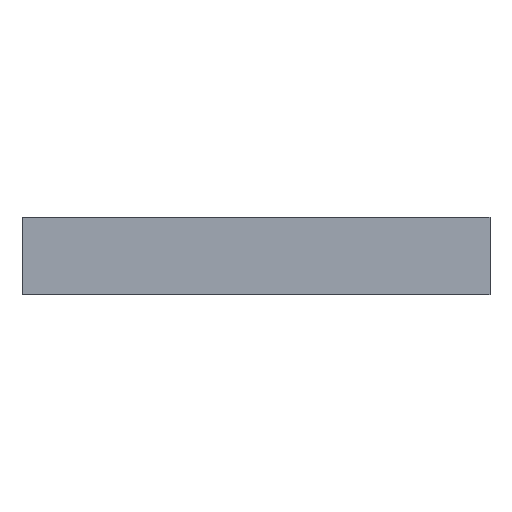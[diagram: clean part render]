
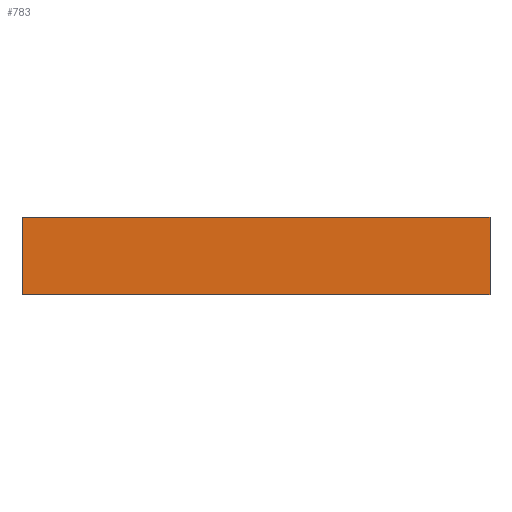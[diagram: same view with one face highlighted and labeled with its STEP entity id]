
A CAD part, left-side view. The second image highlights one B-rep face of the part: STEP entity #783.
In plain terms, the highlighted planar face has unit normal (-1, 0, 0).
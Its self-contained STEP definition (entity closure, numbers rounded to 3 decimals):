
#9 = FACE_OUTER_BOUND ( 'NONE', #268, .T. ) ;
#15 = DIRECTION ( 'NONE',  ( -1., 0., 0. ) ) ;
#57 = DIRECTION ( 'NONE',  ( 0., 0., -1. ) ) ;
#167 = LINE ( 'NONE', #852, #961 ) ;
#177 = CARTESIAN_POINT ( 'NONE',  ( 8.121, 33.804, 51.525 ) ) ;
#223 = ORIENTED_EDGE ( 'NONE', *, *, #1051, .T. ) ;
#268 = EDGE_LOOP ( 'NONE', ( #392, #1337, #223, #1166 ) ) ;
#288 = VERTEX_POINT ( 'NONE', #763 ) ;
#348 = PLANE ( 'NONE',  #722 ) ;
#392 = ORIENTED_EDGE ( 'NONE', *, *, #686, .F. ) ;
#421 = DIRECTION ( 'NONE',  ( 0., 0., -1. ) ) ;
#428 = VECTOR ( 'NONE', #421, 1000. ) ;
#673 = DIRECTION ( 'NONE',  ( 0., 0., 1. ) ) ;
#686 = EDGE_CURVE ( 'NONE', #1156, #1226, #1108, .T. ) ;
#722 = AXIS2_PLACEMENT_3D ( 'NONE', #1490, #15, #673 ) ;
#734 = DIRECTION ( 'NONE',  ( 0., 1., 0. ) ) ;
#763 = CARTESIAN_POINT ( 'NONE',  ( 8.121, 33.804, 5.3 ) ) ;
#783 = ADVANCED_FACE ( 'NONE', ( #9 ), #348, .T. ) ;
#826 = LINE ( 'NONE', #1143, #1215 ) ;
#852 = CARTESIAN_POINT ( 'NONE',  ( 8.121, 0., 5.3 ) ) ;
#861 = EDGE_CURVE ( 'NONE', #1226, #976, #826, .T. ) ;
#880 = CARTESIAN_POINT ( 'NONE',  ( 8.121, 1.804, 5.3 ) ) ;
#961 = VECTOR ( 'NONE', #734, 1000. ) ;
#976 = VERTEX_POINT ( 'NONE', #1180 ) ;
#1009 = CARTESIAN_POINT ( 'NONE',  ( 8.121, 1.804, 51.525 ) ) ;
#1051 = EDGE_CURVE ( 'NONE', #288, #976, #1458, .T. ) ;
#1108 = LINE ( 'NONE', #1009, #428 ) ;
#1143 = CARTESIAN_POINT ( 'NONE',  ( 8.121, 0., 0. ) ) ;
#1156 = VERTEX_POINT ( 'NONE', #880 ) ;
#1166 = ORIENTED_EDGE ( 'NONE', *, *, #861, .F. ) ;
#1178 = CARTESIAN_POINT ( 'NONE',  ( 8.121, 1.804, 0. ) ) ;
#1180 = CARTESIAN_POINT ( 'NONE',  ( 8.121, 33.804, 0. ) ) ;
#1215 = VECTOR ( 'NONE', #1398, 1000. ) ;
#1226 = VERTEX_POINT ( 'NONE', #1178 ) ;
#1337 = ORIENTED_EDGE ( 'NONE', *, *, #1362, .T. ) ;
#1362 = EDGE_CURVE ( 'NONE', #1156, #288, #167, .T. ) ;
#1398 = DIRECTION ( 'NONE',  ( 0., 1., 0. ) ) ;
#1458 = LINE ( 'NONE', #177, #1496 ) ;
#1490 = CARTESIAN_POINT ( 'NONE',  ( 8.121, 0., 51.525 ) ) ;
#1496 = VECTOR ( 'NONE', #57, 1000. ) ;
